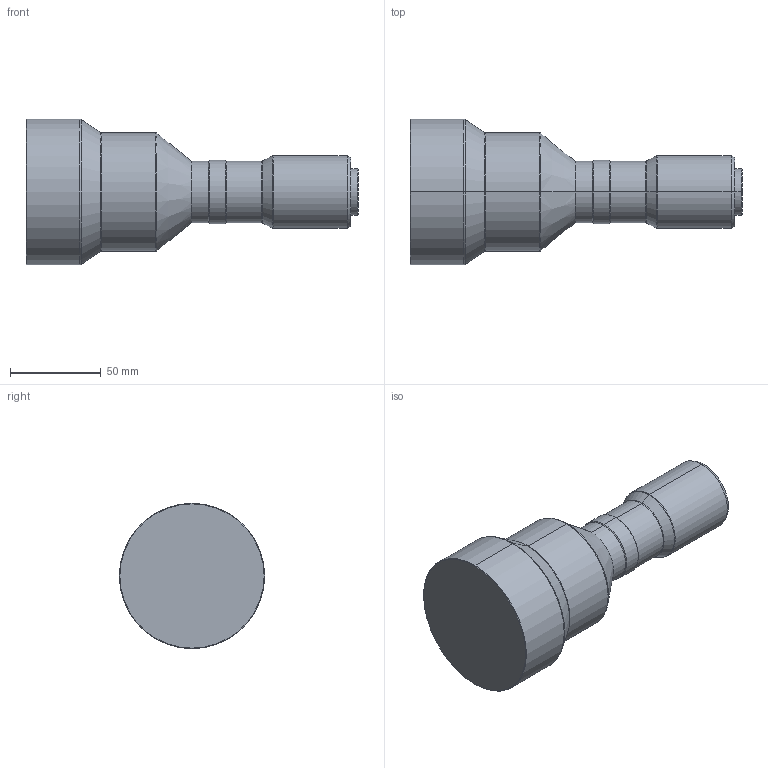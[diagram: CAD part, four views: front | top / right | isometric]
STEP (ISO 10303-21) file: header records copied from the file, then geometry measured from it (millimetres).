
FILE_DESCRIPTION (( 'STEP AP203' ), '1' );
FILE_NAME ('DTCA111-64-AL.STEP', '2021-11-10T03:14:03', ( '' ), ( '' ), 'SwSTEP 2.0', 'SolidWorks 2017', '' );
FILE_SCHEMA (( 'CONFIG_CONTROL_DESIGN' ));
Length unit declared in the file: millimetre
Products named in the file (1): DTCA111-64-AL
Bounding box: 182.6 x 80 x 80 mm (x, y, z)
Volume: 434560.9 mm3; surface area: 37481.7 mm2
Topology: 1 solids, 1 shells, 45 faces, 88 edges, 48 vertices
Faces by surface type: cone 16, cylinder 14, torus 10, plane 5
Entity records: 1221 total; most frequent: DIRECTION 238, CARTESIAN_POINT 182, ORIENTED_EDGE 176, AXIS2_PLACEMENT_3D 104, EDGE_CURVE 88, CIRCLE 58, VERTEX_POINT 48, EDGE_LOOP 48
